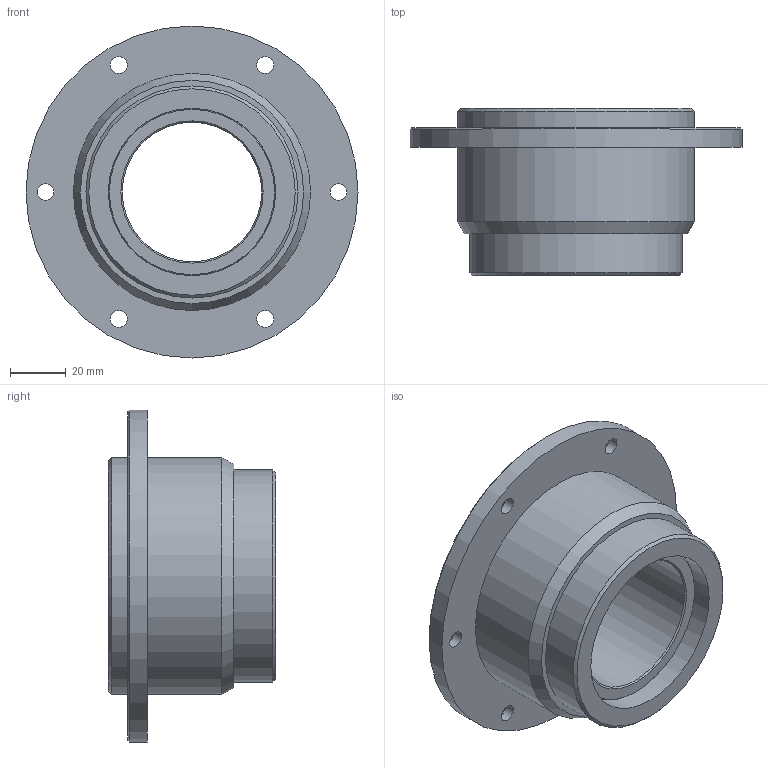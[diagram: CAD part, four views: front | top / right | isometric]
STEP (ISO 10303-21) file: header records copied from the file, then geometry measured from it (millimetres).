
FILE_DESCRIPTION(('STEP AP214'),'1');
FILE_NAME('C:/Projets/Serie 10.xx.xx/10.13.05.step','2011-11-10T15:34:32',(' '),(' '),'Spatial InterOp 3D',' ',' ');
FILE_SCHEMA(('automotive_design'));
Length unit declared in the file: metre
Products named in the file (3): boitier 05; rotule 05; 1
Bounding box: 119 x 60 x 119 mm (x, y, z)
Volume: 215445.7 mm3; surface area: 64644.8 mm2
Topology: 2 solids, 2 shells, 57 faces, 636 edges, 1088 vertices
Faces by surface type: cylinder 20, cone 20, plane 15, sphere 2
Full cylindrical faces by diameter (mm): 6 x6, 50 x1, 60 x1, 76 x1, 85 x2, 119 x1
Entity records: 8089 total; most frequent: CARTESIAN_POINT 818, DIRECTION 786, STYLED_ITEM 559, PRESENTATION_STYLE_ASSIGNMENT 559, COLOUR_RGB 559, LINE 526, VECTOR 526, TRIMMED_CURVE 502
